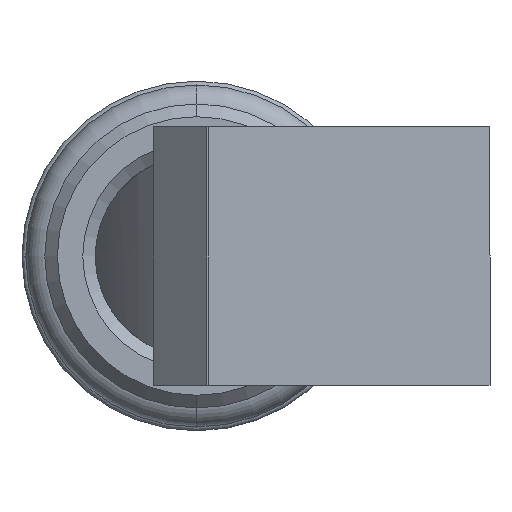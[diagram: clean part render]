
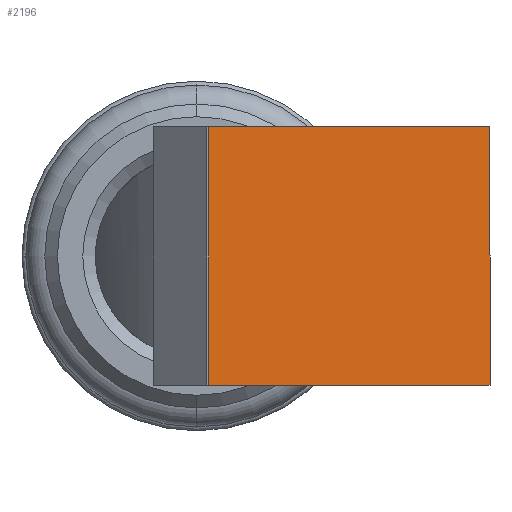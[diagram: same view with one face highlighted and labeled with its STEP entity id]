
A CAD part, left-side view. The second image highlights one B-rep face of the part: STEP entity #2196.
In plain terms, the highlighted planar face has unit normal (-0.998, -0.069, 0).
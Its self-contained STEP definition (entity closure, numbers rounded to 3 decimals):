
#20 = VERTEX_POINT ( 'NONE', #3323 ) ;
#65 = ORIENTED_EDGE ( 'NONE', *, *, #2409, .T. ) ;
#81 = VERTEX_POINT ( 'NONE', #3084 ) ;
#114 = CARTESIAN_POINT ( 'NONE',  ( -173.729, -11.573, -5.1 ) ) ;
#134 = VECTOR ( 'NONE', #2790, 1000. ) ;
#258 = CARTESIAN_POINT ( 'NONE',  ( -173.729, -11.573, 5.1 ) ) ;
#263 = ORIENTED_EDGE ( 'NONE', *, *, #2585, .F. ) ;
#310 = DIRECTION ( 'NONE',  ( 0., 0., 1. ) ) ;
#668 = ORIENTED_EDGE ( 'NONE', *, *, #2642, .T. ) ;
#743 = LINE ( 'NONE', #3640, #134 ) ;
#965 = EDGE_LOOP ( 'NONE', ( #263, #668, #65, #2427 ) ) ;
#1679 = CARTESIAN_POINT ( 'NONE',  ( -162.593, -171.875, 5.1 ) ) ;
#1718 = VECTOR ( 'NONE', #310, 1000. ) ;
#1744 = CARTESIAN_POINT ( 'NONE',  ( -162.593, -171.875, -15. ) ) ;
#1745 = VERTEX_POINT ( 'NONE', #114 ) ;
#1762 = DIRECTION ( 'NONE',  ( 0.069, -0.998, 0. ) ) ;
#1845 = LINE ( 'NONE', #1679, #3291 ) ;
#1891 = LINE ( 'NONE', #3451, #2123 ) ;
#1957 = PLANE ( 'NONE',  #2251 ) ;
#2022 = CARTESIAN_POINT ( 'NONE',  ( -174.5, -0.473, -15. ) ) ;
#2123 = VECTOR ( 'NONE', #1762, 1000. ) ;
#2196 = ADVANCED_FACE ( 'NONE', ( #3342 ), #1957, .F. ) ;
#2228 = DIRECTION ( 'NONE',  ( 0.069, -0.998, 0. ) ) ;
#2251 = AXIS2_PLACEMENT_3D ( 'NONE', #1744, #2720, #2474 ) ;
#2409 = EDGE_CURVE ( 'NONE', #1745, #3302, #743, .T. ) ;
#2427 = ORIENTED_EDGE ( 'NONE', *, *, #3181, .F. ) ;
#2474 = DIRECTION ( 'NONE',  ( -0.069, 0.998, 0. ) ) ;
#2585 = EDGE_CURVE ( 'NONE', #20, #81, #2662, .T. ) ;
#2642 = EDGE_CURVE ( 'NONE', #20, #1745, #1891, .T. ) ;
#2662 = LINE ( 'NONE', #2022, #1718 ) ;
#2720 = DIRECTION ( 'NONE',  ( 0.998, 0.069, 0. ) ) ;
#2790 = DIRECTION ( 'NONE',  ( 0., 0., 1. ) ) ;
#3084 = CARTESIAN_POINT ( 'NONE',  ( -174.5, -0.473, 5.1 ) ) ;
#3181 = EDGE_CURVE ( 'NONE', #81, #3302, #1845, .T. ) ;
#3291 = VECTOR ( 'NONE', #2228, 1000. ) ;
#3302 = VERTEX_POINT ( 'NONE', #258 ) ;
#3323 = CARTESIAN_POINT ( 'NONE',  ( -174.5, -0.473, -5.1 ) ) ;
#3342 = FACE_OUTER_BOUND ( 'NONE', #965, .T. ) ;
#3451 = CARTESIAN_POINT ( 'NONE',  ( -162.593, -171.875, -5.1 ) ) ;
#3640 = CARTESIAN_POINT ( 'NONE',  ( -173.729, -11.573, -15. ) ) ;
